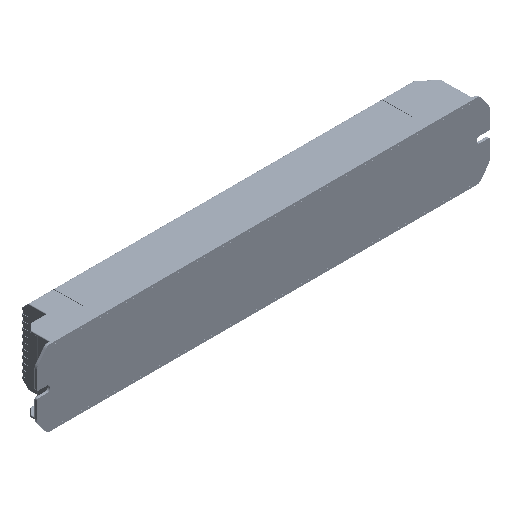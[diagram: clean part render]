
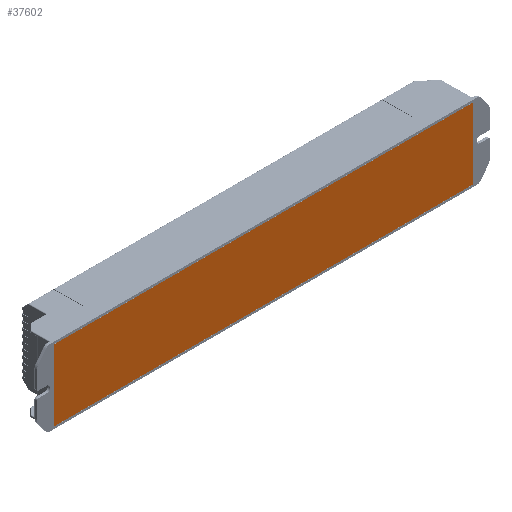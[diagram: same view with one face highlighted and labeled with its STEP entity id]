
A CAD part, isometric view. The second image highlights one B-rep face of the part: STEP entity #37602.
In plain terms, the highlighted planar face has unit normal (0, -1, 0).
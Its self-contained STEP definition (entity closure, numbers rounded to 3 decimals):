
#35496=DIRECTION('',(0.,0.,1.));
#35497=VECTOR('',#35496,47.);
#35498=CARTESIAN_POINT('',(138.5,0.,-23.5));
#35499=LINE('',#35498,#35497);
#35896=DIRECTION('',(-1.,0.,0.));
#35897=VECTOR('',#35896,277.);
#35898=CARTESIAN_POINT('',(138.5,0.,23.5));
#35899=LINE('',#35898,#35897);
#36155=DIRECTION('',(1.,0.,0.));
#36156=VECTOR('',#36155,277.);
#36157=CARTESIAN_POINT('',(-138.5,0.,-23.5));
#36158=LINE('',#36157,#36156);
#36190=DIRECTION('',(0.,0.,-1.));
#36191=VECTOR('',#36190,47.);
#36192=CARTESIAN_POINT('',(-138.5,0.,23.5));
#36193=LINE('',#36192,#36191);
#37275=CARTESIAN_POINT('',(138.5,0.,23.5));
#37277=VERTEX_POINT('',#37275);
#37305=CARTESIAN_POINT('',(-138.5,0.,23.5));
#37307=VERTEX_POINT('',#37305);
#37335=CARTESIAN_POINT('',(138.5,0.,-23.5));
#37337=VERTEX_POINT('',#37335);
#37365=CARTESIAN_POINT('',(-138.5,0.,-23.5));
#37367=VERTEX_POINT('',#37365);
#37587=CARTESIAN_POINT('',(10.25,0.,5.));
#37588=DIRECTION('',(0.,1.,0.));
#37589=DIRECTION('',(1.,0.,0.));
#37590=AXIS2_PLACEMENT_3D('',#37587,#37588,#37589);
#37591=PLANE('',#37590);
#37593=ORIENTED_EDGE('',*,*,#37592,.F.);
#37595=ORIENTED_EDGE('',*,*,#37594,.F.);
#37597=ORIENTED_EDGE('',*,*,#37596,.F.);
#37599=ORIENTED_EDGE('',*,*,#37598,.F.);
#37600=EDGE_LOOP('',(#37593,#37595,#37597,#37599));
#37601=FACE_OUTER_BOUND('',#37600,.F.);
#37602=ADVANCED_FACE('',(#37601),#37591,.F.);
#37592=EDGE_CURVE('',#37337,#37277,#35499,.T.);
#37594=EDGE_CURVE('',#37367,#37337,#36158,.T.);
#37596=EDGE_CURVE('',#37307,#37367,#36193,.T.);
#37598=EDGE_CURVE('',#37277,#37307,#35899,.T.);
